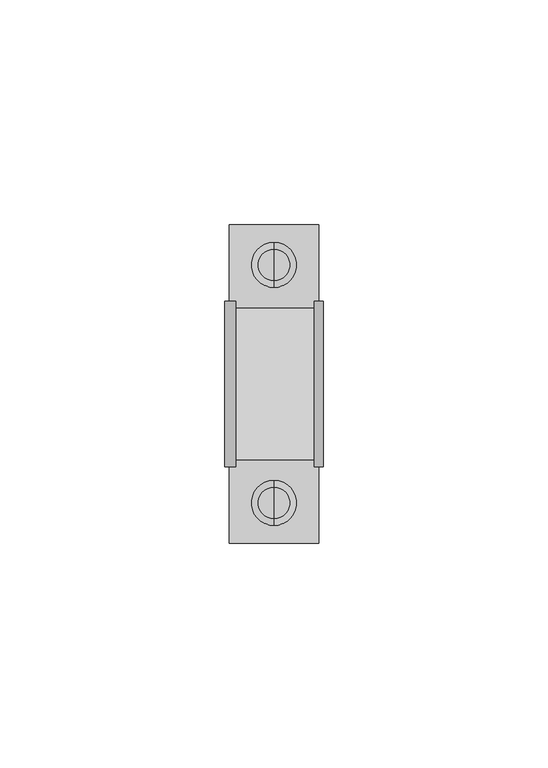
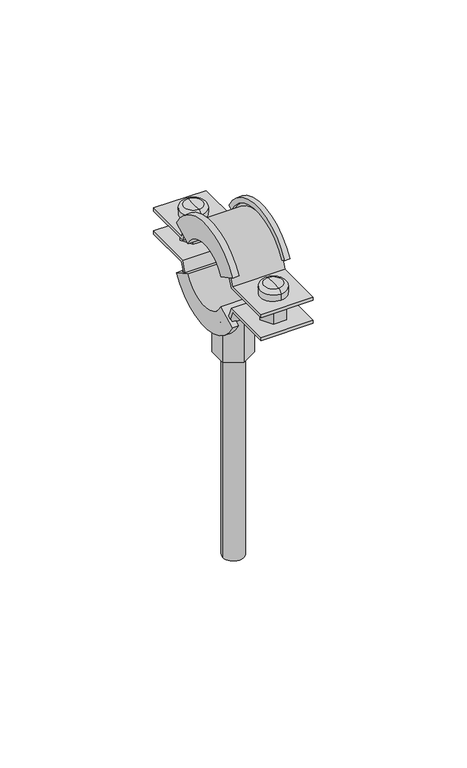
"""IFC4 building model written with IfcOpenShell, lengths in millimetres: pipe fitting geometry, NIRON abrazadera isofonica lisa : Estándard."""

from ifc_helpers import new_model, si_unit, point, frame, origin, origin_2d, place, context, project, spatial, polyline, circle_curve, ellipse_curve, trimmed, segment, composite_curve, outline, extrude, source, transform, mapped, element, save
from ifc_brep_helpers import plane_surface, cylinder_surface, revolved_surface, advanced_brep


def pipe_fitting_28136ee3(model_context):
    return source(origin(), model_context, "Body", "SolidModel", [
        advanced_brep(
        [(0.0, 22.5, -7.8), (0.0, 22.5, -4.8), (0.0, 30.5, -4.8), (0.0, 30.5, -7.8), (0.0, 26.5, -7.8), (0.0, 26.5, -4.8)],
        [
            (0, 1),
            (1, 2, circle_curve(frame((0.0, 26.5, -4.8), z_axis=(0.0, 0.0, -1.0), x_axis=(0.0, 1.0, 0.0)), 4.0)),
            (2, 3),
            (3, 0, circle_curve(frame((0.0, 26.5, -7.8), z_axis=(0.0, 0.0, 1.0), x_axis=(0.0, 1.0, 0.0)), 4.0)),
            (2, 1, circle_curve(frame((0.0, 26.5, -4.8), z_axis=(0.0, 0.0, -1.0), x_axis=(0.0, 1.0, 0.0)), 4.0)),
            (0, 3, circle_curve(frame((0.0, 26.5, -7.8), z_axis=(0.0, 0.0, 1.0), x_axis=(0.0, 1.0, 0.0)), 4.0)),
            (4, 0),
            (3, 4),
            (1, 5),
            (5, 2),
        ],
        [
            cylinder_surface(frame((0.0, 26.5, -110.5332781), z_axis=(0.0, 0.0, -1.0), x_axis=(0.0, 1.0, 0.0)), 4.0),
            plane_surface(frame((0.0, 26.5, -7.8), z_axis=(0.0, 0.0, -1.0), x_axis=(0.0, 1.0, 0.0))),
            plane_surface(frame((0.0, 26.5, -4.8), z_axis=(0.0, 0.0, 1.0), x_axis=(0.0, 1.0, 0.0))),
        ],
        [
            (0, [[1, 2, 3, 4]]),
            (0, [[-3, 5, -1, 6]]),
            (1, [[7, -4, 8]]),
            (1, [[-8, -6, -7]]),
            (2, [[9, 10, -2]]),
            (2, [[-10, -9, -5]]),
        ],
    ),
        advanced_brep(
        [(0.0, 26.5, 4.8), (0.0, 21.5, 4.8), (0.0, 31.5, 4.8), (0.0, 21.5, 7.3), (0.0, 31.5, 7.3), (0.0, 23.0, 8.8), (0.0, 26.5, 8.8), (0.0, 30.0, 8.8)],
        [
            (0, 1),
            (1, 2, circle_curve(frame((0.0, 26.5, 4.8), z_axis=(0.0, 0.0, -1.0), x_axis=(0.0, 1.0, 0.0)), 5.0)),
            (2, 0),
            (2, 1, circle_curve(frame((0.0, 26.5, 4.8), z_axis=(0.0, 0.0, -1.0), x_axis=(0.0, 1.0, 0.0)), 5.0)),
            (1, 3),
            (3, 4, circle_curve(frame((0.0, 26.5, 7.3), z_axis=(0.0, 0.0, -1.0), x_axis=(0.0, 1.0, 0.0)), 5.0)),
            (4, 2),
            (4, 3, circle_curve(frame((0.0, 26.5, 7.3), z_axis=(0.0, 0.0, -1.0), x_axis=(0.0, 1.0, 0.0)), 5.0)),
            (5, 6),
            (6, 7),
            (7, 5, circle_curve(frame((0.0, 26.5, 8.8), z_axis=(0.0, 0.0, 1.0), x_axis=(0.0, 1.0, 0.0)), 3.5)),
            (5, 7, circle_curve(frame((0.0, 26.5, 8.8), z_axis=(0.0, 0.0, 1.0), x_axis=(0.0, 1.0, 0.0)), 3.5)),
            (3, 5, circle_curve(frame((0.0, 23.0, 7.3), z_axis=(-1.0, 0.0, 0.0), x_axis=(0.0, 1.0, 0.0)), 1.5)),
            (7, 4, circle_curve(frame((0.0, 30.0, 7.3), z_axis=(-1.0, 0.0, 0.0), x_axis=(0.0, -1.0, 0.0)), 1.5)),
        ],
        [
            plane_surface(frame((0.0, 26.5, 4.8), z_axis=(0.0, 0.0, -1.0), x_axis=(0.0, 1.0, 0.0))),
            cylinder_surface(frame((0.0, 26.5, 9.8), z_axis=(0.0, 0.0, -1.0), x_axis=(0.0, 1.0, 0.0)), 5.0),
            plane_surface(frame((0.0, 26.5, 8.8), z_axis=(0.0, 0.0, 1.0), x_axis=(0.0, 1.0, 0.0))),
            revolved_surface(trimmed(ellipse_curve(frame((0.0, 30.0, 7.3), z_axis=(-1.0, 0.0, 0.0), x_axis=(0.0, -1.0, 0.0)), 1.5, 1.5), [point((0.0, 30.0, 8.8))], [point((0.0, 31.5, 7.3))], True, "CARTESIAN"), (0.0, 26.5, 9.8), (0.0, 0.0, -1.0)),
        ],
        [
            (0, [[1, 2, 3]]),
            (0, [[-3, 4, -1]]),
            (1, [[5, 6, 7, -2]]),
            (1, [[-7, 8, -5, -4]]),
            (2, [[9, 10, 11]]),
            (2, [[-10, -9, 12]]),
            (3, [[13, -11, 14, -6]]),
            (3, [[-14, -12, -13, -8]]),
        ],
    ),
        advanced_brep(
        [(0.0, -22.5, -7.4875), (0.0, -30.5, -7.4875), (0.0, -30.5, -4.4875), (0.0, -22.5, -4.4875), (0.0, -26.5, -7.4875), (0.0, -26.5, -4.4875)],
        [
            (0, 1, circle_curve(frame((0.0, -26.5, -7.4875), z_axis=(0.0, 0.0, 1.0), x_axis=(0.0, -1.0, 0.0)), 4.0)),
            (1, 2),
            (2, 3, circle_curve(frame((0.0, -26.5, -4.4875), z_axis=(0.0, 0.0, -1.0), x_axis=(0.0, -1.0, 0.0)), 4.0)),
            (3, 0),
            (1, 0, circle_curve(frame((0.0, -26.5, -7.4875), z_axis=(0.0, 0.0, 1.0), x_axis=(0.0, -1.0, 0.0)), 4.0)),
            (3, 2, circle_curve(frame((0.0, -26.5, -4.4875), z_axis=(0.0, 0.0, -1.0), x_axis=(0.0, -1.0, 0.0)), 4.0)),
            (4, 1),
            (0, 4),
            (2, 5),
            (5, 3),
        ],
        [
            cylinder_surface(frame((0.0, -26.5, -110.2207781), z_axis=(0.0, 0.0, -1.0), x_axis=(0.0, -1.0, 0.0)), 4.0),
            plane_surface(frame((0.0, -26.5, -7.4875), z_axis=(0.0, 0.0, -1.0), x_axis=(0.0, -1.0, 0.0))),
            plane_surface(frame((0.0, -26.5, -4.4875), z_axis=(0.0, 0.0, 1.0), x_axis=(0.0, -1.0, 0.0))),
        ],
        [
            (0, [[1, 2, 3, 4]]),
            (0, [[5, -4, 6, -2]]),
            (1, [[7, -1, 8]]),
            (1, [[-8, -5, -7]]),
            (2, [[-3, 9, 10]]),
            (2, [[-6, -10, -9]]),
        ],
    ),
        advanced_brep(
        [(0.0, -26.5, 5.1125), (0.0, -31.5, 5.1125), (0.0, -21.5, 5.1125), (0.0, -31.5, 7.6125), (0.0, -21.5, 7.6125), (0.0, -23.0, 9.1125), (0.0, -30.0, 9.1125), (0.0, -26.5, 9.1125)],
        [
            (0, 1),
            (1, 2, circle_curve(frame((0.0, -26.5, 5.1125), z_axis=(0.0, 0.0, -1.0), x_axis=(0.0, -1.0, 0.0)), 5.0)),
            (2, 0),
            (2, 1, circle_curve(frame((0.0, -26.5, 5.1125), z_axis=(0.0, 0.0, -1.0), x_axis=(0.0, -1.0, 0.0)), 5.0)),
            (1, 3),
            (3, 4, circle_curve(frame((0.0, -26.5, 7.6125), z_axis=(0.0, 0.0, -1.0), x_axis=(0.0, -1.0, 0.0)), 5.0)),
            (4, 2),
            (4, 3, circle_curve(frame((0.0, -26.5, 7.6125), z_axis=(0.0, 0.0, -1.0), x_axis=(0.0, -1.0, 0.0)), 5.0)),
            (5, 6, circle_curve(frame((0.0, -26.5, 9.1125), z_axis=(0.0, 0.0, 1.0), x_axis=(0.0, -1.0, 0.0)), 3.5)),
            (6, 7),
            (7, 5),
            (6, 5, circle_curve(frame((0.0, -26.5, 9.1125), z_axis=(0.0, 0.0, 1.0), x_axis=(0.0, -1.0, 0.0)), 3.5)),
            (3, 6, circle_curve(frame((0.0, -30.0, 7.6125), z_axis=(-1.0, 0.0, 0.0), x_axis=(0.0, 1.0, 0.0)), 1.5)),
            (5, 4, circle_curve(frame((0.0, -23.0, 7.6125), z_axis=(-1.0, 0.0, 0.0), x_axis=(0.0, -1.0, 0.0)), 1.5)),
        ],
        [
            plane_surface(frame((0.0, -26.5, 5.1125), z_axis=(0.0, 0.0, -1.0), x_axis=(0.0, -1.0, 0.0))),
            cylinder_surface(frame((0.0, -26.5, 10.1125), z_axis=(0.0, 0.0, -1.0), x_axis=(0.0, -1.0, 0.0)), 5.0),
            plane_surface(frame((0.0, -26.5, 9.1125), z_axis=(0.0, 0.0, 1.0), x_axis=(0.0, -1.0, 0.0))),
            revolved_surface(trimmed(ellipse_curve(frame((0.0, -30.0, 7.6125), z_axis=(1.0, 0.0, 0.0), x_axis=(0.0, 1.0, 0.0)), 1.5, 1.5), [point((0.0, -30.0, 9.1125))], [point((0.0, -31.5, 7.6125))], True, "CARTESIAN"), (0.0, -26.5, 10.1125), (0.0, 0.0, -1.0)),
        ],
        [
            (0, [[1, 2, 3]]),
            (0, [[-3, 4, -1]]),
            (1, [[-2, 5, 6, 7]]),
            (1, [[-4, -7, 8, -5]]),
            (2, [[9, 10, 11]]),
            (2, [[12, -11, -10]]),
            (3, [[-6, 13, -9, 14]]),
            (3, [[-8, -14, -12, -13]]),
        ],
    ),
        extrude(outline(polyline([(2.5, 22.169873), (-2.5, 22.169873), (-5.0, 26.5), (-2.5, 30.830127), (2.5, 30.830127), (5.0, 26.5), (2.5, 22.169873)])), frame((0.0, 0.0, -4.0), z_axis=(0.0, 0.0, 1.0), x_axis=(1.0, 0.0, 0.0)), (0.0, 0.0, 1.0), 8.0),
        extrude(outline(polyline([(2.5, -22.169873), (5.0, -26.5), (2.5, -30.830127), (-2.5, -30.830127), (-5.0, -26.5), (-2.5, -22.169873), (2.5, -22.169873)])), frame((0.0, 0.0, -4.0), z_axis=(0.0, 0.0, 1.0), x_axis=(1.0, 0.0, 0.0)), (0.0, 0.0, 1.0), 8.0),
        advanced_brep(
        [(11.0, -10.9914234, 6.0), (11.0, -18.4216256, 10.0242509), (9.0, -18.4216256, 10.0242509), (9.0, -16.6629978, 9.0717655), (10.0, -16.6629978, 9.0717655), (10.0, -14.9043701, 8.1192801), (-10.0, -14.9043701, 8.1192801), (-10.0, -16.6629978, 9.0717655), (-8.5466338, -16.6629978, 9.0717655), (-8.5466338, -18.4216256, 10.0242509), (-11.0, -18.4216256, 10.0242509), (-11.0, -10.9914234, 6.0), (11.0, 10.9914234, 6.0), (-11.0, 10.9914234, 6.0), (-11.0, 18.4216256, 10.0242509), (-8.5466338, 18.4216256, 10.0242509), (-8.5466338, 16.6629978, 9.0717655), (-10.0, 16.6629978, 9.0717655), (-10.0, 14.9043701, 8.1192801), (10.0, 14.9043701, 8.1192801), (10.0, 16.6629978, 9.0717655), (9.0, 16.6629978, 9.0717655), (9.0, 18.4216256, 10.0242509), (11.0, 18.4216256, 10.0242509)],
        [
            (0, 1),
            (1, 2),
            (2, 3),
            (3, 4),
            (4, 5),
            (5, 6),
            (6, 7),
            (7, 8),
            (8, 9),
            (9, 10),
            (10, 11),
            (11, 0),
            (12, 13),
            (13, 14),
            (14, 15),
            (15, 16),
            (16, 17),
            (17, 18),
            (18, 19),
            (19, 20),
            (20, 21),
            (21, 22),
            (22, 23),
            (23, 12),
            (12, 0, circle_curve(frame((11.0, 0.0, 0.0469661), z_axis=(1.0, 0.0, 0.0), x_axis=(0.0, -0.8793138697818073, 0.47624270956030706)), 12.5)),
            (11, 13, circle_curve(frame((-11.0, 0.0, 0.0469661), z_axis=(-1.0, 0.0, 0.0), x_axis=(0.0, -0.8793138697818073, 0.47624270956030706)), 12.5)),
            (10, 14, circle_curve(frame((-11.0, 0.0, 0.0469661), z_axis=(-1.0, 0.0, 0.0), x_axis=(0.0, -0.8793138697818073, 0.47624270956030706)), 20.95)),
            (9, 15, circle_curve(frame((-8.5466338, 0.0, 0.0469661), z_axis=(-1.0, 0.0, 0.0), x_axis=(0.0, -0.8793138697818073, 0.47624270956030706)), 20.95)),
            (8, 16, circle_curve(frame((-8.5466338, 0.0, 0.0469661), z_axis=(-1.0, 0.0, 0.0), x_axis=(0.0, -0.8793138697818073, 0.47624270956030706)), 18.95)),
            (7, 17, circle_curve(frame((-10.0, 0.0, 0.0469661), z_axis=(-1.0, 0.0, 0.0), x_axis=(0.0, -0.8793138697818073, 0.47624270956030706)), 18.95)),
            (6, 18, circle_curve(frame((-10.0, 0.0, 0.0469661), z_axis=(-1.0, 0.0, 0.0), x_axis=(0.0, -0.8793138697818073, 0.47624270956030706)), 16.95)),
            (5, 19, circle_curve(frame((10.0, 0.0, 0.0469661), z_axis=(-1.0, 0.0, 0.0), x_axis=(0.0, -0.8793138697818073, 0.47624270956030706)), 16.95)),
            (4, 20, circle_curve(frame((10.0, 0.0, 0.0469661), z_axis=(-1.0, 0.0, 0.0), x_axis=(0.0, -0.8793138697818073, 0.47624270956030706)), 18.95)),
            (3, 21, circle_curve(frame((9.0, 0.0, 0.0469661), z_axis=(-1.0, 0.0, 0.0), x_axis=(0.0, -0.8793138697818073, 0.47624270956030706)), 18.95)),
            (2, 22, circle_curve(frame((9.0, 0.0, 0.0469661), z_axis=(-1.0, 0.0, 0.0), x_axis=(0.0, -0.8793138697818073, 0.47624270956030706)), 20.95)),
            (1, 23, circle_curve(frame((11.0, 0.0, 0.0469661), z_axis=(-1.0, 0.0, 0.0), x_axis=(0.0, -0.8793138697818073, 0.47624270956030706)), 20.95)),
        ],
        [
            plane_surface(frame((0.0, -10.9914234, 6.0), z_axis=(0.0, -0.47624270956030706, -0.8793138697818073), x_axis=(1.0, 0.0, 0.0))),
            plane_surface(frame((0.0, 10.9914234, 6.0), z_axis=(0.0, 0.47624270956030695, -0.8793138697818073), x_axis=(1.0, 0.0, 0.0))),
            revolved_surface(polyline([(-11.0, -10.99142337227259, 5.999999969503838), (11.0, -10.99142337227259, 5.999999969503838)]), (0.0, 0.0, 0.0469661), (-1.0, 0.0, 0.0)),
            plane_surface(frame((-11.0, 0.0, 0.0469661), z_axis=(-1.0, 0.0, 0.0), x_axis=(0.0, -0.8793138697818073, 0.47624270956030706))),
            cylinder_surface(frame((0.0, 0.0, 0.0469661), z_axis=(-1.0, 0.0, 0.0), x_axis=(0.0, -0.8793138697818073, 0.47624270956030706)), 20.95),
            plane_surface(frame((-8.5466338, 0.0, 0.0469661), z_axis=(1.0, 0.0, 0.0), x_axis=(0.0, -0.8793138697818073, 0.47624270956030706))),
            revolved_surface(polyline([(-10.0, -16.662997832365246, 9.071765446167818), (-8.5466338, -16.662997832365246, 9.071765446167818)]), (0.0, 0.0, 0.0469661), (-1.0, 0.0, 0.0)),
            plane_surface(frame((-10.0, 0.0, 0.0469661), z_axis=(1.0, 0.0, 0.0), x_axis=(0.0, -0.8793138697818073, 0.47624270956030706))),
            cylinder_surface(frame((0.0, 0.0, 0.0469661), z_axis=(-1.0, 0.0, 0.0), x_axis=(0.0, -0.8793138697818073, 0.47624270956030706)), 16.95),
            plane_surface(frame((10.0, 0.0, 0.0469661), z_axis=(-1.0, 0.0, 0.0), x_axis=(0.0, -0.8793138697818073, 0.47624270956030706))),
            revolved_surface(polyline([(9.0, -16.662997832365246, 9.071765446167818), (10.0, -16.662997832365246, 9.071765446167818)]), (0.0, 0.0, 0.0469661), (-1.0, 0.0, 0.0)),
            plane_surface(frame((9.0, 0.0, 0.0469661), z_axis=(-1.0, 0.0, 0.0), x_axis=(0.0, -0.8793138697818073, 0.47624270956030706))),
            plane_surface(frame((11.0, 0.0, 0.0469661), z_axis=(1.0, 0.0, 0.0), x_axis=(0.0, -0.8793138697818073, 0.47624270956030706))),
        ],
        [
            (0, [[1, 2, 3, 4, 5, 6, 7, 8, 9, 10, 11, 12]]),
            (1, [[13, 14, 15, 16, 17, 18, 19, 20, 21, 22, 23, 24]]),
            (2, [[25, -12, 26, -13]]),
            (3, [[-26, -11, 27, -14]]),
            (4, [[-27, -10, 28, -15]]),
            (5, [[-28, -9, 29, -16]]),
            (6, [[-29, -8, 30, -17]]),
            (7, [[-30, -7, 31, -18]]),
            (8, [[-31, -6, 32, -19]]),
            (9, [[-32, -5, 33, -20]]),
            (10, [[-33, -4, 34, -21]]),
            (11, [[-34, -3, 35, -22]]),
            (4, [[-35, -2, 36, -23]]),
            (12, [[-36, -1, -25, -24]]),
        ],
    ),
        extrude(outline(composite_curve([segment(trimmed(circle_curve(origin_2d(), 16.5), [point((-16.0078106, -4.0))], [point((16.0078106, -4.0))], True, "CARTESIAN"), True, "CONTINUOUS"), segment(polyline([(16.0078106, -4.0), (35.5, -4.0), (35.5, -5.3), (16.9926455, -5.3)]), True, "CONTINUOUS"), segment(trimmed(circle_curve(origin_2d(), 17.8), [point((16.9926455, -5.3))], [point((-16.9926455, -5.3))], False, "CARTESIAN"), True, "CONTINUOUS"), segment(polyline([(-16.9926455, -5.3), (-35.5, -5.3), (-35.5, -4.0), (-16.0078106, -4.0)]), True, "CONTINUOUS")], self_intersect=False)), frame((-10.0, 0.0, 0.0), z_axis=(1.0, 0.0, 0.0), x_axis=(0.0, 1.0, 0.0)), (0.0, 0.0, 1.0), 20.0),
        advanced_brep(
        [(11.0, -10.9658561, -6.0), (-11.0, -10.9658561, -6.0), (-11.0, -18.3787748, -10.056), (-8.5466338, -18.3787748, -10.056), (-8.5466338, -16.6242378, -9.096), (-10.0, -16.6242378, -9.096), (-10.0, -14.8697009, -8.136), (10.0, -14.8697009, -8.136), (10.0, -16.6242378, -9.096), (9.0, -16.6242378, -9.096), (9.0, -18.3787748, -10.056), (11.0, -18.3787748, -10.056), (11.0, 10.9658561, -6.0), (11.0, 18.3787748, -10.056), (9.0, 18.3787748, -10.056), (9.0, 16.6242378, -9.096), (10.0, 16.6242378, -9.096), (10.0, 14.8697009, -8.136), (-10.0, 14.8697009, -8.136), (-10.0, 16.6242378, -9.096), (-8.5466338, 16.6242378, -9.096), (-8.5466338, 18.3787748, -10.056), (-11.0, 18.3787748, -10.056), (-11.0, 10.9658561, -6.0)],
        [
            (0, 1),
            (1, 2),
            (2, 3),
            (3, 4),
            (4, 5),
            (5, 6),
            (6, 7),
            (7, 8),
            (8, 9),
            (9, 10),
            (10, 11),
            (11, 0),
            (12, 13),
            (13, 14),
            (14, 15),
            (15, 16),
            (16, 17),
            (17, 18),
            (18, 19),
            (19, 20),
            (20, 21),
            (21, 22),
            (22, 23),
            (23, 12),
            (23, 1, circle_curve(frame((-11.0, 0.0, 0.0), z_axis=(-1.0, 0.0, 0.0), x_axis=(0.0, -0.8772684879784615, -0.47999999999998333)), 12.5)),
            (0, 12, circle_curve(frame((11.0, 0.0, 0.0), z_axis=(1.0, 0.0, 0.0), x_axis=(0.0, -0.8772684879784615, -0.47999999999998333)), 12.5)),
            (22, 2, circle_curve(frame((-11.0, 0.0, 0.0), z_axis=(-1.0, 0.0, 0.0), x_axis=(0.0, -0.8772684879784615, -0.47999999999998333)), 20.95)),
            (21, 3, circle_curve(frame((-8.5466338, 0.0, 0.0), z_axis=(-1.0, 0.0, 0.0), x_axis=(0.0, -0.8772684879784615, -0.47999999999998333)), 20.95)),
            (20, 4, circle_curve(frame((-8.5466338, 0.0, 0.0), z_axis=(-1.0, 0.0, 0.0), x_axis=(0.0, -0.8772684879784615, -0.47999999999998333)), 18.95)),
            (19, 5, circle_curve(frame((-10.0, 0.0, 0.0), z_axis=(-1.0, 0.0, 0.0), x_axis=(0.0, -0.8772684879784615, -0.47999999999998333)), 18.95)),
            (18, 6, circle_curve(frame((-10.0, 0.0, 0.0), z_axis=(-1.0, 0.0, 0.0), x_axis=(0.0, -0.8772684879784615, -0.47999999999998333)), 16.95)),
            (17, 7, circle_curve(frame((10.0, 0.0, 0.0), z_axis=(-1.0, 0.0, 0.0), x_axis=(0.0, -0.8772684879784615, -0.47999999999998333)), 16.95)),
            (16, 8, circle_curve(frame((10.0, 0.0, 0.0), z_axis=(-1.0, 0.0, 0.0), x_axis=(0.0, -0.8772684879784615, -0.47999999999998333)), 18.95)),
            (15, 9, circle_curve(frame((9.0, 0.0, 0.0), z_axis=(-1.0, 0.0, 0.0), x_axis=(0.0, -0.8772684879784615, -0.47999999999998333)), 18.95)),
            (14, 10, circle_curve(frame((9.0, 0.0, 0.0), z_axis=(-1.0, 0.0, 0.0), x_axis=(0.0, -0.8772684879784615, -0.47999999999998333)), 20.95)),
            (13, 11, circle_curve(frame((11.0, 0.0, 0.0), z_axis=(-1.0, 0.0, 0.0), x_axis=(0.0, -0.8772684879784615, -0.47999999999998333)), 20.95)),
        ],
        [
            plane_surface(frame((0.0, -10.9658561, -6.0), z_axis=(0.0, -0.47999999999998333, 0.8772684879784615), x_axis=(1.0, 0.0, 0.0))),
            plane_surface(frame((0.0, 10.9658561, -6.0), z_axis=(0.0, 0.4799999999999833, 0.8772684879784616), x_axis=(1.0, 0.0, 0.0))),
            revolved_surface(polyline([(11.0, -10.965856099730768, -5.999999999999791), (-11.0, -10.965856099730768, -5.999999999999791)]), (0.0, 0.0, 0.0), (1.0, 0.0, 0.0)),
            plane_surface(frame((-11.0, 0.0, 0.0), z_axis=(-1.0, 0.0, 0.0), x_axis=(0.0, -0.8772684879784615, -0.47999999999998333))),
            cylinder_surface(frame((0.0, 0.0, 0.0), z_axis=(1.0, 0.0, 0.0), x_axis=(0.0, -0.8772684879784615, -0.47999999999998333)), 20.95),
            plane_surface(frame((-8.5466338, 0.0, 0.0), z_axis=(1.0, 0.0, 0.0), x_axis=(0.0, -0.8772684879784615, -0.47999999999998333))),
            revolved_surface(polyline([(-8.5466338, -16.624237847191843, -9.095999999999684), (-10.0, -16.624237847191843, -9.095999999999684)]), (0.0, 0.0, 0.0), (1.0, 0.0, 0.0)),
            plane_surface(frame((-10.0, 0.0, 0.0), z_axis=(1.0, 0.0, 0.0), x_axis=(0.0, -0.8772684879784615, -0.47999999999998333))),
            cylinder_surface(frame((0.0, 0.0, 0.0), z_axis=(1.0, 0.0, 0.0), x_axis=(0.0, -0.8772684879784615, -0.47999999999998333)), 16.95),
            plane_surface(frame((10.0, 0.0, 0.0), z_axis=(-1.0, 0.0, 0.0), x_axis=(0.0, -0.8772684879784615, -0.47999999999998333))),
            revolved_surface(polyline([(10.0, -16.624237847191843, -9.095999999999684), (9.0, -16.624237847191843, -9.095999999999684)]), (0.0, 0.0, 0.0), (1.0, 0.0, 0.0)),
            plane_surface(frame((9.0, 0.0, 0.0), z_axis=(-1.0, 0.0, 0.0), x_axis=(0.0, -0.8772684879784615, -0.47999999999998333))),
            plane_surface(frame((11.0, 0.0, 0.0), z_axis=(1.0, 0.0, 0.0), x_axis=(0.0, -0.8772684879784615, -0.47999999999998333))),
        ],
        [
            (0, [[1, 2, 3, 4, 5, 6, 7, 8, 9, 10, 11, 12]]),
            (1, [[13, 14, 15, 16, 17, 18, 19, 20, 21, 22, 23, 24]]),
            (2, [[25, -1, 26, -24]]),
            (3, [[27, -2, -25, -23]]),
            (4, [[28, -3, -27, -22]]),
            (5, [[29, -4, -28, -21]]),
            (6, [[30, -5, -29, -20]]),
            (7, [[31, -6, -30, -19]]),
            (8, [[32, -7, -31, -18]]),
            (9, [[33, -8, -32, -17]]),
            (10, [[34, -9, -33, -16]]),
            (11, [[35, -10, -34, -15]]),
            (4, [[36, -11, -35, -14]]),
            (12, [[-26, -12, -36, -13]]),
        ],
    ),
        extrude(outline(composite_curve([segment(trimmed(circle_curve(origin_2d(), 17.8), [point((-16.9926455, 5.3))], [point((16.9926455, 5.3))], False, "CARTESIAN"), True, "CONTINUOUS"), segment(polyline([(16.9926455, 5.3), (35.5, 5.3), (35.5, 4.0), (16.0078106, 4.0)]), True, "CONTINUOUS"), segment(trimmed(circle_curve(origin_2d(), 16.5), [point((16.0078106, 4.0))], [point((-16.0078106, 4.0))], True, "CARTESIAN"), True, "CONTINUOUS"), segment(polyline([(-16.0078106, 4.0), (-35.5, 4.0), (-35.5, 5.3), (-16.9926455, 5.3)]), True, "CONTINUOUS")], self_intersect=False)), frame((-10.0, 0.0, 0.0), z_axis=(1.0, 0.0, 0.0), x_axis=(0.0, 1.0, 0.0)), (0.0, 0.0, 1.0), 20.0),
        extrude(outline(composite_curve([segment(trimmed(circle_curve(origin_2d(), 4.0), [point((-4.0, 0.0))], [point((4.0, 0.0))], False, "CARTESIAN"), True, "CONTINUOUS"), segment(trimmed(circle_curve(origin_2d(), 4.0), [point((4.0, 0.0))], [point((-4.0, 0.0))], False, "CARTESIAN"), True, "CONTINUOUS")], self_intersect=False)), frame((0.0, 0.0, -116.5), z_axis=(0.0, 0.0, 1.0), x_axis=(1.0, 0.0, 0.0)), (0.0, 0.0, 1.0), 100.0),
        extrude(outline(polyline([(-6.0621778, 3.5), (0.0, 7.0), (6.0621778, 3.5), (6.0621778, -3.5), (0.0, -7.0), (-6.0621778, -3.5), (-6.0621778, 3.5)])), frame((0.0, 0.0, -34.7), z_axis=(0.0, 0.0, 1.0), x_axis=(1.0, 0.0, 0.0)), (0.0, 0.0, 1.0), 18.2),
    ])


if __name__ == "__main__":
    model = new_model("IFC4")
    model_context = context("Model", 3, world=origin())
    ifc_project = project(units=[si_unit("LENGTHUNIT", "METRE", prefix="MILLI")], contexts=[model_context])
    site = spatial("IfcSite", under=ifc_project)
    building = spatial("IfcBuilding", under=site)
    placement = place(None, origin())
    pipe_fitting_shape = pipe_fitting_28136ee3(model_context)
    element("IfcPipeFitting", 1, ObjectType="NIRON abrazadera isofonica lisa : Estándard", at=placement, inside=building, context=model_context, shape_type="MappedRepresentation", body=[
        mapped(pipe_fitting_shape, transform((0.0, 0.0, 0.0), x_axis=(1.0, 0.0, 0.0), y_axis=(0.0, 1.0, 0.0), z_axis=(0.0, 0.0, 1.0))),
    ])
    save(model, "model.ifc")
